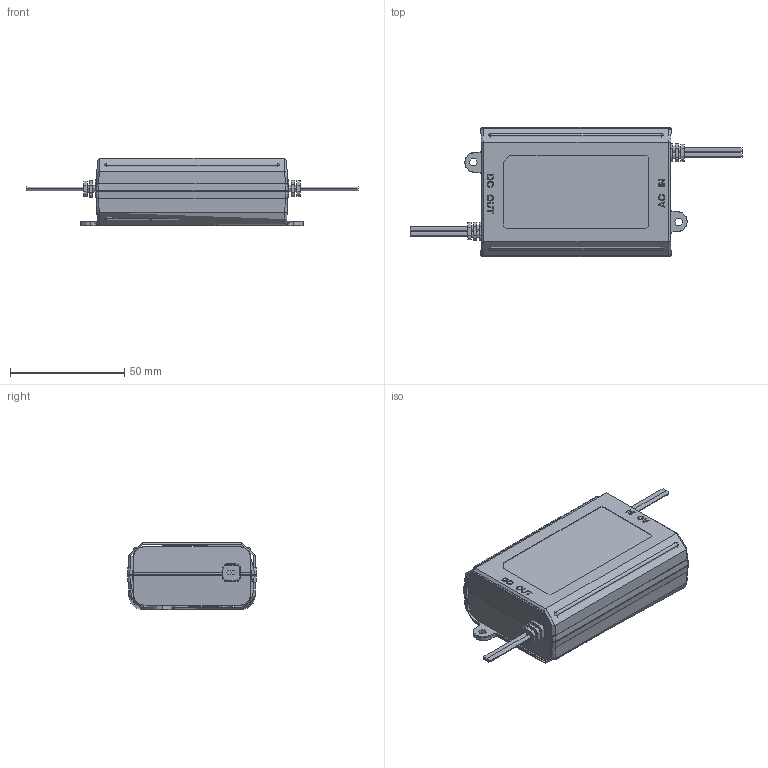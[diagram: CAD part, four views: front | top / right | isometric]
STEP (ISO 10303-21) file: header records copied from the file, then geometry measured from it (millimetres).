
FILE_DESCRIPTION(('OneSpaceDesigner STEP Export'),'2;1');
FILE_NAME('PCD-16.25.stp','2010-12-02T15:33:36',(''),(''),'OneSpace Designer STEP processor for AP214 (Solid Model)','OneSpace Designer 13.20 11-May-2005 (C) CoCreate Software GmbH','');
FILE_SCHEMA(('AUTOMOTIVE_DESIGN { 1 0 10303 214 1 1 1 1 }'));
Length unit declared in the file: millimetre
Products named in the file (2): PCD-16
Assembly tree (1 placements, depth 2):
  PCD-16
    PCD-16
Bounding box: 145.61 x 56.62 x 29.5 mm (x, y, z)
Topology: 1 solids, 2 shells, 860 faces, 2418 edges, 1578 vertices
Faces by surface type: plane 649, cylinder 155, bspline 24, torus 20, sphere 8, extrusion 4
Full cylindrical faces by diameter (mm): 2 x1
Entity records: 28676 total; most frequent: CARTESIAN_POINT 6456, ORIENTED_EDGE 4824, DIRECTION 4142, EDGE_CURVE 2411, VECTOR 2002, LINE 1998, VERTEX_POINT 1578, AXIS2_PLACEMENT_3D 1070
